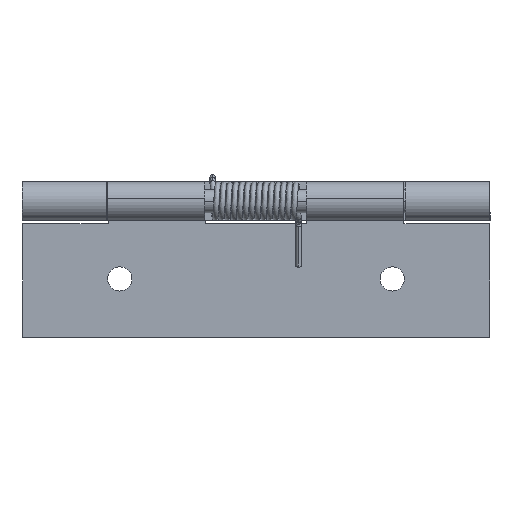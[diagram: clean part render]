
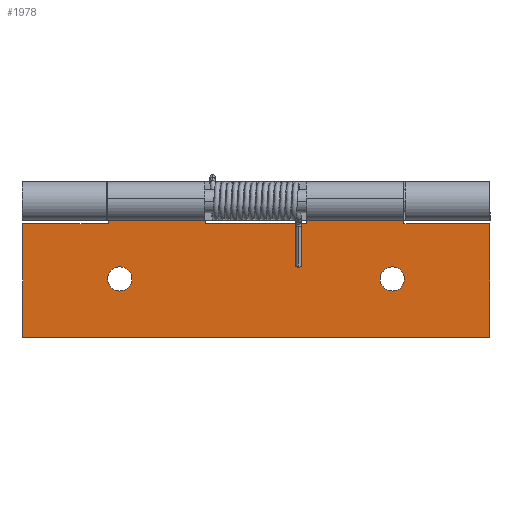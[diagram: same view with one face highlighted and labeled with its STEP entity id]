
A CAD part, left-side view. The second image highlights one B-rep face of the part: STEP entity #1978.
In plain terms, the highlighted planar face has unit normal (-1, 0, 0) as drawn and (0, 0, 1) by its records, which use the part's own axes.
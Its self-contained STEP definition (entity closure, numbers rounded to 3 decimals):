
#1101=CARTESIAN_POINT('',(-3.4,-18.,0.65));
#1102=VERTEX_POINT('',#1101);
#1110=CARTESIAN_POINT('',(-3.4,-5.5,0.65));
#1111=VERTEX_POINT('',#1110);
#1112=CARTESIAN_POINT('',(-3.4,-5.5,0.65));
#1113=DIRECTION('',(0.0,-1.0,0.0));
#1114=VECTOR('',#1113,12.5);
#1115=LINE('',#1112,#1114);
#1116=EDGE_CURVE('',#1111,#1102,#1115,.T.);
#1176=CARTESIAN_POINT('',(-3.4,7.5,0.65));
#1177=VERTEX_POINT('',#1176);
#1185=CARTESIAN_POINT('',(-3.4,20.,0.65));
#1186=VERTEX_POINT('',#1185);
#1187=CARTESIAN_POINT('',(-3.4,20.,0.65));
#1188=DIRECTION('',(0.0,-1.0,0.0));
#1189=VECTOR('',#1188,12.5);
#1190=LINE('',#1187,#1189);
#1191=EDGE_CURVE('',#1186,#1177,#1190,.T.);
#1318=CARTESIAN_POINT('',(8.15,-16.5,0.65));
#1319=VERTEX_POINT('',#1318);
#1335=CARTESIAN_POINT('',(5.05,-16.5,0.65));
#1336=VERTEX_POINT('',#1335);
#1343=CARTESIAN_POINT('',(6.6,-16.5,0.65));
#1344=DIRECTION('',(0.0,0.0,-1.0));
#1345=DIRECTION('',(1.0,0.0,0.0));
#1346=AXIS2_PLACEMENT_3D('',#1343,#1344,#1345);
#1347=CIRCLE('',#1346,1.55);
#1348=EDGE_CURVE('',#1319,#1336,#1347,.T.);
#1360=CARTESIAN_POINT('',(8.15,18.5,0.65));
#1361=VERTEX_POINT('',#1360);
#1377=CARTESIAN_POINT('',(5.05,18.5,0.65));
#1378=VERTEX_POINT('',#1377);
#1385=CARTESIAN_POINT('',(6.6,18.5,0.65));
#1386=DIRECTION('',(0.0,0.0,-1.0));
#1387=DIRECTION('',(1.0,0.0,0.0));
#1388=AXIS2_PLACEMENT_3D('',#1385,#1386,#1387);
#1389=CIRCLE('',#1388,1.55);
#1390=EDGE_CURVE('',#1361,#1378,#1389,.T.);
#1401=CARTESIAN_POINT('',(6.6,18.5,0.65));
#1402=DIRECTION('',(0.0,0.0,-1.0));
#1403=DIRECTION('',(1.0,0.0,0.0));
#1404=AXIS2_PLACEMENT_3D('',#1401,#1402,#1403);
#1405=CIRCLE('',#1404,1.55);
#1406=EDGE_CURVE('',#1378,#1361,#1405,.T.);
#1425=CARTESIAN_POINT('',(6.6,-16.5,0.65));
#1426=DIRECTION('',(0.0,0.0,-1.0));
#1427=DIRECTION('',(1.0,0.0,0.0));
#1428=AXIS2_PLACEMENT_3D('',#1425,#1426,#1427);
#1429=CIRCLE('',#1428,1.55);
#1430=EDGE_CURVE('',#1336,#1319,#1429,.T.);
#1456=CARTESIAN_POINT('',(-0.5,-18.,0.65));
#1457=VERTEX_POINT('',#1456);
#1464=CARTESIAN_POINT('',(-0.5,-18.,0.65));
#1465=DIRECTION('',(-1.0,0.0,0.0));
#1466=VECTOR('',#1465,2.9);
#1467=LINE('',#1464,#1466);
#1468=EDGE_CURVE('',#1457,#1102,#1467,.T.);
#1506=CARTESIAN_POINT('',(-0.5,20.,0.65));
#1507=VERTEX_POINT('',#1506);
#1508=CARTESIAN_POINT('',(-3.4,20.,0.65));
#1509=DIRECTION('',(1.0,0.0,0.0));
#1510=VECTOR('',#1509,2.9);
#1511=LINE('',#1508,#1510);
#1512=EDGE_CURVE('',#1186,#1507,#1511,.T.);
#1736=CARTESIAN_POINT('',(-0.5,31.,0.65));
#1737=VERTEX_POINT('',#1736);
#1738=CARTESIAN_POINT('',(-0.5,20.,0.65));
#1739=DIRECTION('',(0.0,1.0,0.0));
#1740=VECTOR('',#1739,11.0);
#1741=LINE('',#1738,#1740);
#1742=EDGE_CURVE('',#1507,#1737,#1741,.T.);
#1760=CARTESIAN_POINT('',(14.1,31.,0.65));
#1761=VERTEX_POINT('',#1760);
#1762=CARTESIAN_POINT('',(-0.5,31.,0.65));
#1763=DIRECTION('',(1.0,0.0,0.0));
#1764=VECTOR('',#1763,14.6);
#1765=LINE('',#1762,#1764);
#1766=EDGE_CURVE('',#1737,#1761,#1765,.T.);
#1784=CARTESIAN_POINT('',(14.1,-29.,0.65));
#1785=VERTEX_POINT('',#1784);
#1786=CARTESIAN_POINT('',(14.1,31.,0.65));
#1787=DIRECTION('',(0.0,-1.0,0.0));
#1788=VECTOR('',#1787,60.);
#1789=LINE('',#1786,#1788);
#1790=EDGE_CURVE('',#1761,#1785,#1789,.T.);
#1808=CARTESIAN_POINT('',(-0.5,-29.,0.65));
#1809=VERTEX_POINT('',#1808);
#1810=CARTESIAN_POINT('',(14.1,-29.,0.65));
#1811=DIRECTION('',(-1.0,0.0,0.0));
#1812=VECTOR('',#1811,14.6);
#1813=LINE('',#1810,#1812);
#1814=EDGE_CURVE('',#1785,#1809,#1813,.T.);
#1832=CARTESIAN_POINT('',(-0.5,-29.,0.65));
#1833=DIRECTION('',(0.0,1.0,0.0));
#1834=VECTOR('',#1833,11.0);
#1835=LINE('',#1832,#1834);
#1836=EDGE_CURVE('',#1809,#1457,#1835,.T.);
#1873=CARTESIAN_POINT('',(-0.5,-5.5,0.65));
#1874=VERTEX_POINT('',#1873);
#1875=CARTESIAN_POINT('',(-3.4,-5.5,0.65));
#1876=DIRECTION('',(1.0,0.0,0.0));
#1877=VECTOR('',#1876,2.9);
#1878=LINE('',#1875,#1877);
#1879=EDGE_CURVE('',#1111,#1874,#1878,.T.);
#1909=CARTESIAN_POINT('',(-0.5,7.5,0.65));
#1910=VERTEX_POINT('',#1909);
#1911=CARTESIAN_POINT('',(-0.5,-5.5,0.65));
#1912=DIRECTION('',(0.0,1.0,0.0));
#1913=VECTOR('',#1912,13.);
#1914=LINE('',#1911,#1913);
#1915=EDGE_CURVE('',#1874,#1910,#1914,.T.);
#1935=CARTESIAN_POINT('',(-0.5,7.5,0.65));
#1936=DIRECTION('',(-1.0,0.0,0.0));
#1937=VECTOR('',#1936,2.9);
#1938=LINE('',#1935,#1937);
#1939=EDGE_CURVE('',#1910,#1177,#1938,.T.);
#1951=CARTESIAN_POINT('',(1.312,0.,0.65));
#1952=DIRECTION('',(0.0,0.0,1.0));
#1953=DIRECTION('',(1.0,0.0,0.0));
#1954=AXIS2_PLACEMENT_3D('',#1951,#1952,#1953);
#1955=PLANE('',#1954);
#1956=ORIENTED_EDGE('',*,*,#1116,.T.);
#1957=ORIENTED_EDGE('',*,*,#1468,.F.);
#1958=ORIENTED_EDGE('',*,*,#1836,.F.);
#1959=ORIENTED_EDGE('',*,*,#1814,.F.);
#1960=ORIENTED_EDGE('',*,*,#1790,.F.);
#1961=ORIENTED_EDGE('',*,*,#1766,.F.);
#1962=ORIENTED_EDGE('',*,*,#1742,.F.);
#1963=ORIENTED_EDGE('',*,*,#1512,.F.);
#1964=ORIENTED_EDGE('',*,*,#1191,.T.);
#1965=ORIENTED_EDGE('',*,*,#1939,.F.);
#1966=ORIENTED_EDGE('',*,*,#1915,.F.);
#1967=ORIENTED_EDGE('',*,*,#1879,.F.);
#1968=EDGE_LOOP('',(#1956,#1957,#1958,#1959,#1960,#1961,#1962,#1963,#1964,#1965,#1966,#1967));
#1969=FACE_OUTER_BOUND('',#1968,.T.);
#1970=ORIENTED_EDGE('',*,*,#1390,.T.);
#1971=ORIENTED_EDGE('',*,*,#1406,.T.);
#1972=EDGE_LOOP('',(#1970,#1971));
#1973=FACE_BOUND('',#1972,.T.);
#1974=ORIENTED_EDGE('',*,*,#1348,.T.);
#1975=ORIENTED_EDGE('',*,*,#1430,.T.);
#1976=EDGE_LOOP('',(#1974,#1975));
#1977=FACE_BOUND('',#1976,.T.);
#1978=ADVANCED_FACE('',(#1969,#1973,#1977),#1955,.T.);
